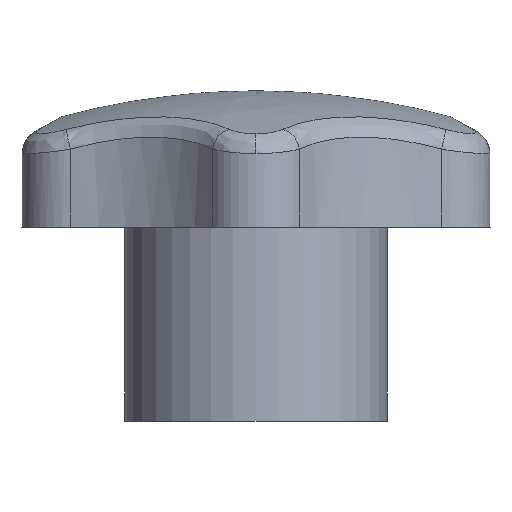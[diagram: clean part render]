
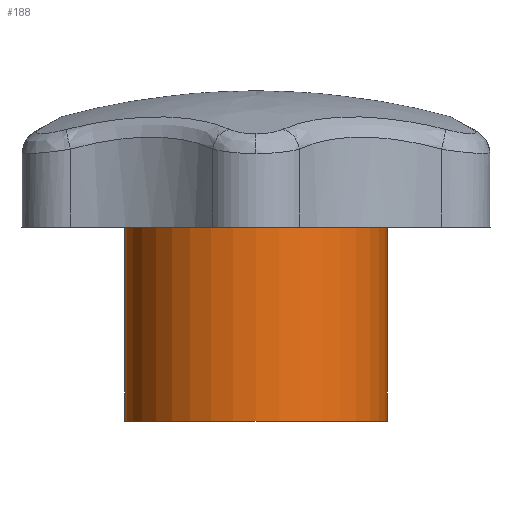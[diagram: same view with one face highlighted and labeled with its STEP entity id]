
A CAD part, left-side view. The second image highlights one B-rep face of the part: STEP entity #188.
In plain terms, the highlighted cylindrical face has radius 12.5 mm (diameter 25 mm), a full revolution.
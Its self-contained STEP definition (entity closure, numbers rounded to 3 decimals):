
#152=CARTESIAN_POINT('',(-12.5,0.,18.5));
#153=VERTEX_POINT('',#152);
#154=CARTESIAN_POINT('',(0.,0.,18.5));
#155=DIRECTION('',(-1.,-0.,0.));
#156=DIRECTION('',(0.,0.,1.));
#157=AXIS2_PLACEMENT_3D('',#154,#156,#155);
#158=CIRCLE('',#157,12.5);
#159=EDGE_CURVE('',#153,#153,#158,.T.);
#164=CARTESIAN_POINT('',(0.,0.,18.5));
#165=DIRECTION('',(-1.,0.,0.));
#166=DIRECTION('',(0.,0.,-1.));
#167=AXIS2_PLACEMENT_3D('',#164,#166,#165);
#168=CYLINDRICAL_SURFACE('',#167,12.5);
#169=CARTESIAN_POINT('',(-12.5,0.,0.));
#170=VERTEX_POINT('',#169);
#171=CARTESIAN_POINT('',(-12.5,0.,18.5));
#172=DIRECTION('',(0.,0.,-1.));
#173=VECTOR('',#172,18.5);
#174=LINE('',#171,#173);
#175=EDGE_CURVE('',#153,#170,#174,.T.);
#176=ORIENTED_EDGE('E55',*,*,#175,.T.);
#177=CARTESIAN_POINT('',(0.,0.,0.));
#178=DIRECTION('',(-1.,0.,0.));
#179=DIRECTION('',(0.,0.,1.));
#180=AXIS2_PLACEMENT_3D('',#177,#179,#178);
#181=CIRCLE('',#180,12.5);
#182=EDGE_CURVE('',#170,#170,#181,.T.);
#183=ORIENTED_EDGE('E57',*,*,#182,.T.);
#184=ORIENTED_EDGE('E57',*,*,#175,.F.);
#185=ORIENTED_EDGE('E57',*,*,#159,.F.);
#186=EDGE_LOOP('',(#176,#183,#184,#185));
#187=FACE_OUTER_BOUND('',#186,.T.);
#188=ADVANCED_FACE('F50',(#187),#168,.T.);
